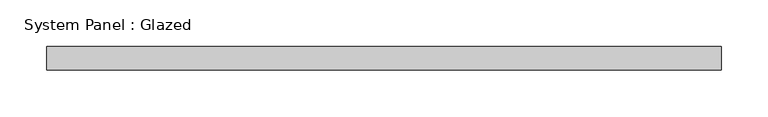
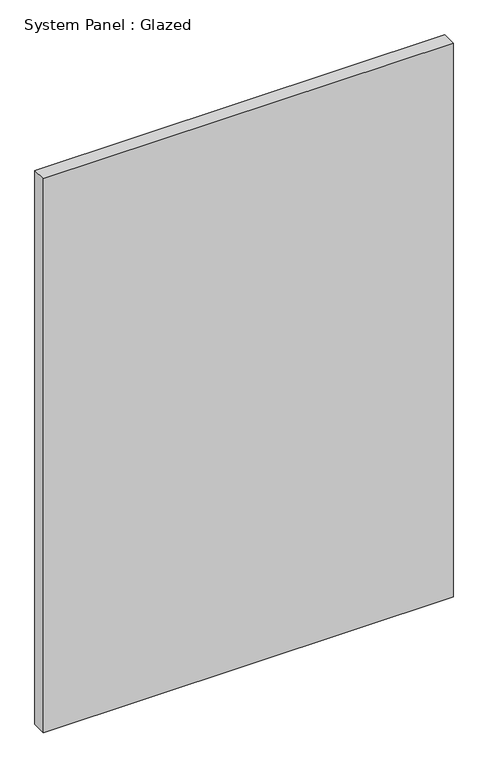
"""IFC4 building model written with IfcOpenShell, lengths in millimetres: plate geometry, System Panel : Glazed."""

import ifcopenshell
import ifcopenshell.guid

model = None  # the IFC model being written
_history = None  # IfcOwnerHistory: only IFC2X3 demands one
_inside = {}  # id of a spatial element -> (the spatial element, [elements in it])
_under = {}  # id of a project, library or spatial element -> (it, [spatial elements below it])
_declared = {}  # id of a project -> (the project, [libraries it declares])
_typed = {}  # id of a type object -> (the type object, [elements of that type])
_made_of = {}  # id of a material, layer set ... -> (it, [elements and type objects made of it])


def new_model(schema):
    """Start an empty IFC model of exactly this schema.

    Asked for "IFC4X3", IfcOpenShell would pick the latest addendum, in which some entities
    have other attributes; the version numbers below select the first issue.
    IFC2X3 requires an IfcOwnerHistory on every rooted entity: one is made here for all.
    """
    global model, _history
    if schema == "IFC4X3":
        model = ifcopenshell.file(schema_version=(4, 3, 0, 0))
    else:
        model = ifcopenshell.file(schema=schema)
    _inside.clear()
    _under.clear()
    _declared.clear()
    _typed.clear()
    _made_of.clear()
    _history = None
    if model.schema == "IFC2X3":
        org = make("IfcOrganization", Name="unknown")
        user = make(
            "IfcPersonAndOrganization",
            ThePerson=make("IfcPerson", FamilyName="unknown"),
            TheOrganization=org,
        )
        app = make(
            "IfcApplication",
            ApplicationDeveloper=org,
            Version="unknown",
            ApplicationFullName="unknown",
            ApplicationIdentifier="unknown",
        )
        _history = make(
            "IfcOwnerHistory",
            OwningUser=user,
            OwningApplication=app,
            ChangeAction="ADDED",
            CreationDate=0,
        )
    return model


def make(cls, **values):
    """One entity of the class cls with the attributes given. An attribute that is None is left unset."""
    return model.create_entity(
        cls, **{name: value for name, value in values.items() if value is not None}
    )


def rooted(cls, **values):
    """An entity with a GlobalId (a new one), such as an element, a storey or a relation."""
    return make(cls, GlobalId=ifcopenshell.guid.new(), OwnerHistory=_history, **values)


def si_unit(unit_type, name, prefix=None):
    """IfcSIUnit, for example si_unit("LENGTHUNIT", "METRE", prefix="MILLI")."""
    return make("IfcSIUnit", UnitType=unit_type, Prefix=prefix, Name=name)


def assignment(units):
    """IfcUnitAssignment: the units of a project."""
    return None if units is None else make("IfcUnitAssignment", Units=units)


def point(xyz):
    """IfcCartesianPoint."""
    return None if xyz is None else make("IfcCartesianPoint", Coordinates=xyz)


def direction(xyz):
    """IfcDirection."""
    return None if xyz is None else make("IfcDirection", DirectionRatios=xyz)


def frame(location, z_axis=None, x_axis=None):
    """IfcAxis2Placement3D, a coordinate frame: its origin and axes. An axis left out is left unset."""
    return make(
        "IfcAxis2Placement3D",
        Location=point(location),
        Axis=direction(z_axis),
        RefDirection=direction(x_axis),
    )


def origin():
    """The frame at (0, 0, 0) with its axes left unset."""
    return frame((0.0, 0.0, 0.0))


def origin_with_axes():
    """The frame at (0, 0, 0) with the z axis (0, 0, 1) and the x axis (1, 0, 0) written out."""
    return frame((0.0, 0.0, 0.0), z_axis=(0.0, 0.0, 1.0), x_axis=(1.0, 0.0, 0.0))


def place(relative_to, where):
    """IfcLocalPlacement: puts the frame where relative to a parent placement (None: the world)."""
    return make(
        "IfcLocalPlacement", PlacementRelTo=relative_to, RelativePlacement=where
    )


def context(
    kind, dimensions, precision=None, world=None, true_north=None, identifier=None
):
    """IfcGeometricRepresentationContext, for example the 3D "Model" context."""
    return make(
        "IfcGeometricRepresentationContext",
        ContextIdentifier=identifier,
        ContextType=kind,
        CoordinateSpaceDimension=dimensions,
        Precision=precision,
        WorldCoordinateSystem=world,
        TrueNorth=true_north,
    )


def project(units=None, contexts=None):
    """IfcProject with its units and contexts."""
    return rooted(
        "IfcProject",
        Name="project",
        RepresentationContexts=contexts,
        UnitsInContext=assignment(units),
    )


def spatial(cls, under=None, at=None, **own):
    """A site, building, storey or space (cls), placed at a placement, below another one or the project."""
    s = rooted(cls, ObjectPlacement=at, **own)
    if under is not None:
        _under.setdefault(under.id(), (under, []))[1].append(s)
    return s


def polyline(points):
    """IfcPolyline through the points."""
    return make("IfcPolyline", Points=[point(p) for p in points])


def outline(outer, holes=None, kind="AREA"):
    """IfcArbitraryClosedProfileDef: a profile drawn as a closed curve; with holes, ...WithVoids."""
    if holes is None:
        return make("IfcArbitraryClosedProfileDef", ProfileType=kind, OuterCurve=outer)
    return make(
        "IfcArbitraryProfileDefWithVoids",
        ProfileType=kind,
        OuterCurve=outer,
        InnerCurves=holes,
    )


def extrude(swept, where, along, depth):
    """IfcExtrudedAreaSolid: the profile swept, set in the frame where, extruded along a direction by depth."""
    return make(
        "IfcExtrudedAreaSolid",
        SweptArea=swept,
        Position=where,
        ExtrudedDirection=direction(along),
        Depth=depth,
    )


def shape(context_of_items, identifier, shape_type, items):
    """IfcShapeRepresentation: the items that make up one representation, for example the "Body"."""
    return make(
        "IfcShapeRepresentation",
        ContextOfItems=context_of_items,
        RepresentationIdentifier=identifier,
        RepresentationType=shape_type,
        Items=items,
    )


def source(mapping_origin, context_of_items, identifier, shape_type, items):
    """IfcRepresentationMap: a shape defined once, which mapped items show again and again."""
    return make(
        "IfcRepresentationMap",
        MappingOrigin=mapping_origin,
        MappedRepresentation=shape(context_of_items, identifier, shape_type, items),
    )


def transform(
    local_origin,
    x_axis=None,
    y_axis=None,
    z_axis=None,
    scale=None,
    scale2=None,
    scale3=None,
    uniform=True,
):
    """IfcCartesianTransformationOperator3D, or its non-uniform kind. x_axis, y_axis, z_axis: its Axis1, 2, 3."""
    if uniform:
        return make(
            "IfcCartesianTransformationOperator3D",
            Axis1=direction(x_axis),
            Axis2=direction(y_axis),
            LocalOrigin=point(local_origin),
            Scale=scale,
            Axis3=direction(z_axis),
        )
    return make(
        "IfcCartesianTransformationOperator3DnonUniform",
        Axis1=direction(x_axis),
        Axis2=direction(y_axis),
        LocalOrigin=point(local_origin),
        Scale=scale,
        Axis3=direction(z_axis),
        Scale2=scale2,
        Scale3=scale3,
    )


def mapped(mapping_source, mapping_target):
    """IfcMappedItem: shows the shape of a source again, moved by a transform."""
    return make(
        "IfcMappedItem", MappingSource=mapping_source, MappingTarget=mapping_target
    )


def made_of(thing, what):
    """Note that an element or type object is made of a material, layer set ...; save() writes the relation."""
    if what is not None:
        _made_of.setdefault(what.id(), (what, []))[1].append(thing)
    return thing


def element(
    cls,
    number,
    at=None,
    inside=None,
    cuts=None,
    type_object=None,
    material=None,
    context=None,
    identifier="Body",
    shape_type=None,
    held_by="IfcProductDefinitionShape",
    body=None,
    shapes=None,
    **own,
):
    """One element of the class cls, such as IfcWall. Its Tag is "e" and its number.

    at: its placement. inside: the storey or other place that contains it. cuts: it is an
    opening in that element (IfcRelVoidsElement). A single representation is given by context,
    identifier, shape_type and body (its items); several are given by shapes. held_by: the class
    of the entity that holds the representations. save() writes the other relations.
    """
    e = rooted(cls, Tag="e%d" % number, ObjectPlacement=at, **own)
    if body is not None:
        shapes = [shape(context, identifier, shape_type, body)]
    if shapes is not None:
        e.Representation = make(held_by, Representations=shapes)
    if inside is not None:
        _inside.setdefault(inside.id(), (inside, []))[1].append(e)
    if cuts is not None:
        rooted(
            "IfcRelVoidsElement", RelatingBuildingElement=cuts, RelatedOpeningElement=e
        )
    if type_object is not None:
        _typed.setdefault(type_object.id(), (type_object, []))[1].append(e)
    return made_of(e, material)


def aggregate(whole, parts):
    """IfcRelAggregates: a whole, such as a stair, and the parts it consists of."""
    return rooted("IfcRelAggregates", RelatingObject=whole, RelatedObjects=parts)


def save(model, path):
    """Write the relations noted so far, then the file.

    IfcRelAggregates (storeys below a building ...), IfcRelContainedInSpatialStructure (elements
    in a storey), IfcRelDefinesByType, IfcRelAssociatesMaterial and IfcRelDeclares: one each for
    every whole, place, type object, material and project.
    """
    for whole, parts in _under.values():
        aggregate(whole, parts)
    for where, things in _inside.values():
        rooted(
            "IfcRelContainedInSpatialStructure",
            RelatedElements=things,
            RelatingStructure=where,
        )
    for kind, things in _typed.values():
        rooted("IfcRelDefinesByType", RelatedObjects=things, RelatingType=kind)
    for what, things in _made_of.values():
        rooted("IfcRelAssociatesMaterial", RelatedObjects=things, RelatingMaterial=what)
    for by, libraries in _declared.values():
        rooted("IfcRelDeclares", RelatingContext=by, RelatedDefinitions=libraries)
    model.write(path)


def system_panel_glazed_6c402c5f(model_context):
    return source(origin(), model_context, "Body", "SweptSolid", [
        extrude(outline(polyline([(361.95, 19.05), (-361.95, 19.05), (-361.95, 44.45), (361.95, 44.45), (361.95, 19.05)])), origin_with_axes(), (0.0, 0.0, 1.0), 1035.05),
    ])


if __name__ == "__main__":
    model = new_model("IFC4")
    model_context = context("Model", 3, world=origin())
    ifc_project = project(units=[si_unit("LENGTHUNIT", "METRE", prefix="MILLI")], contexts=[model_context])
    site = spatial("IfcSite", under=ifc_project)
    building = spatial("IfcBuilding", under=site)
    placement = place(None, origin())
    system_panel_glazed_shape = system_panel_glazed_6c402c5f(model_context)
    element("IfcPlate", 1, ObjectType="System Panel : Glazed", at=placement, inside=building, context=model_context, shape_type="MappedRepresentation", body=[
        mapped(system_panel_glazed_shape, transform((0.0, 0.0, 0.0), x_axis=(1.0, 0.0, 0.0), y_axis=(0.0, 1.0, 0.0), z_axis=(0.0, 0.0, 1.0))),
    ])
    save(model, "model.ifc")
